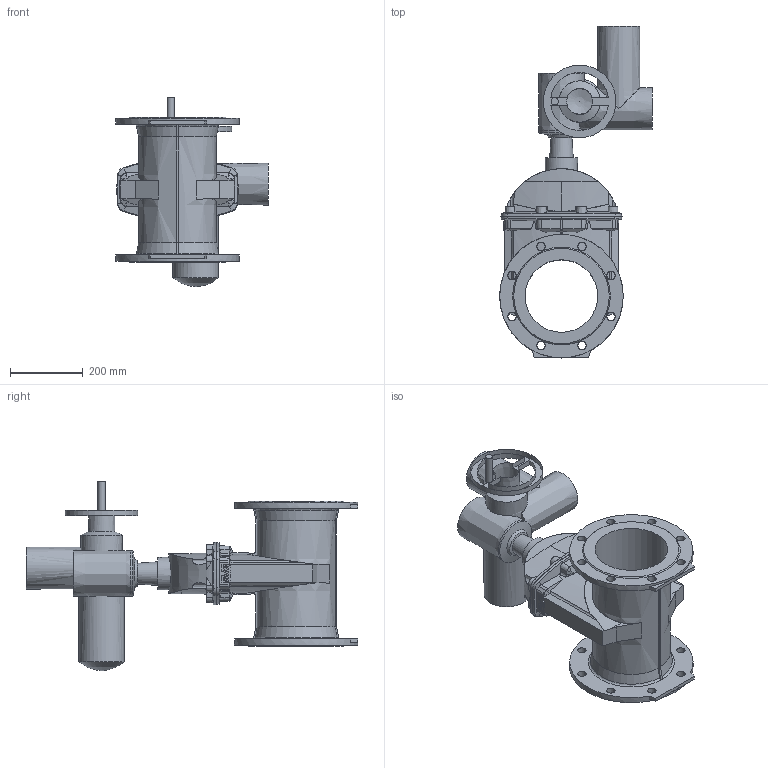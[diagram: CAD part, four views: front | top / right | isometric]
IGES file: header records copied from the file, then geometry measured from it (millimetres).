
Start section: SolidWorks IGES file using analytic representation for surfaces
Global section: file name: \\avksan2\techshare\PBM outline export from Enovia\O_15_72_DN200_X0XXX099_SA10.2_AA0.igs; native system: SolidWorks 2012; preprocessor: SolidWorks 2012; author: pbm; date: 170320.135454; units: inch
Bounding box: 420 x 914 x 521 mm (x, y, z)
Surface area: 1432418.9 mm2 (no closed solid volume)
Topology: 0 solids, 0 shells, 393 faces, 2221 edges, 2141 vertices
Faces by surface type: revolution 221, bspline 172
